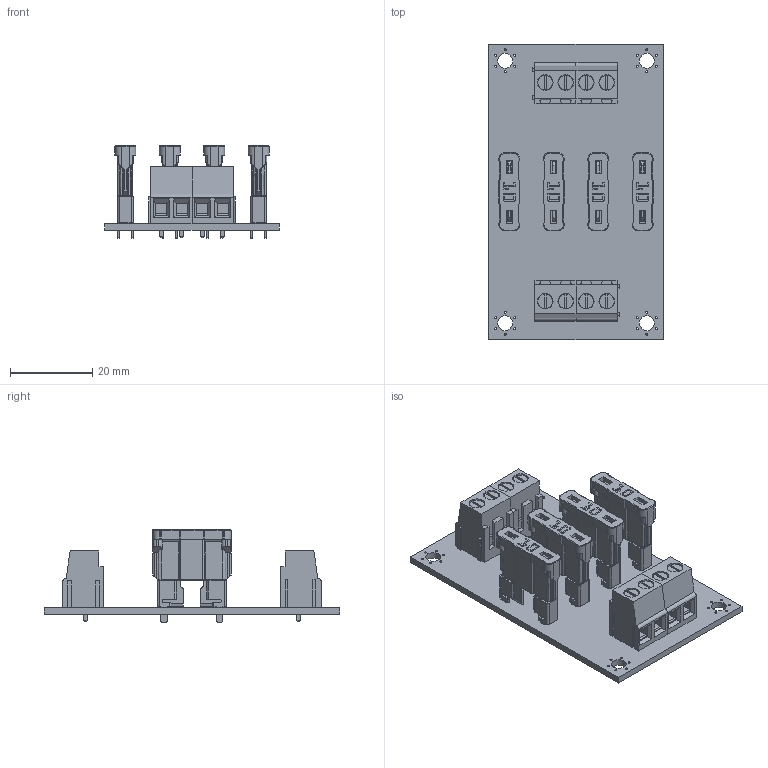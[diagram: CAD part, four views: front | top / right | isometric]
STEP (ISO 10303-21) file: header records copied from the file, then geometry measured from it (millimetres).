
FILE_DESCRIPTION(('Open CASCADE Model'),'2;1');
FILE_NAME('Open CASCADE Shape Model','2025-02-11T09:11:32',('Author'),( 'Open CASCADE'),'Open CASCADE STEP processor 6.8','Open CASCADE 6.8' ,'Unknown');
FILE_SCHEMA(('AUTOMOTIVE_DESIGN { 1 0 10303 214 1 1 1 1 }'));
Length unit declared in the file: millimetre
Products named in the file (15): PCB; Board; J2; EK500V2X2P_ASM3; EK500V-02P; EK500V-02P001; J1; F4; 3557_SET; 35571_001; ATOF_Blade_Fuse1_001; 35571_002; F3; F2; F1
Assembly tree (18 placements, depth 4):
  PCB
    Board
    J2
      EK500V2X2P_ASM3
        EK500V-02P
        EK500V-02P001
    J1
      EK500V2X2P_ASM3
        EK500V-02P
        EK500V-02P001
    F4
      3557_SET
        35571_001
        ATOF_Blade_Fuse1_001
        35571_002
    F3
      3557_SET
        35571_001
        ATOF_Blade_Fuse1_001
        35571_002
    F2
      3557_SET
        35571_001
        ATOF_Blade_Fuse1_001
        35571_002
    F1
      3557_SET
        35571_001
        ATOF_Blade_Fuse1_001
        35571_002
Bounding box: 42.5 x 72 x 22.6 mm (x, y, z)
Volume: 11867.9 mm3; surface area: 18607.4 mm2
Topology: 25 solids, 25 shells, 2218 faces, 6024 edges, 3896 vertices
Faces by surface type: plane 1334, cylinder 608, bspline 164, torus 112
Full cylindrical faces by diameter (mm): 0.5 x24, 1.5 x8, 3.6 x4
Entity records: 27814 total; most frequent: CARTESIAN_POINT 5963, ORIENTED_EDGE 3988, DIRECTION 3786, EDGE_CURVE 1994, LINE 1418, VECTOR 1418, VERTEX_POINT 1294, AXIS2_PLACEMENT_3D 1184
